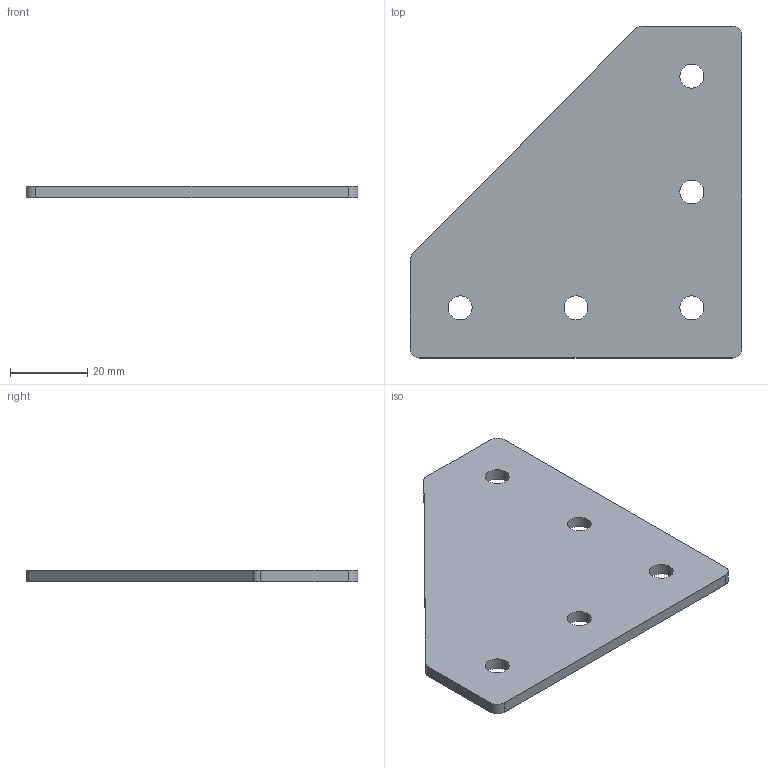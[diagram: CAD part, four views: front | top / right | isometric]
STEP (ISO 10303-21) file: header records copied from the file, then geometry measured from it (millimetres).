
FILE_DESCRIPTION (( 'STEP AP203' ), '1' );
FILE_NAME ('ﾃ-5-ﾓ-30.STEP', '2016-07-19T13:21:42', ( 'RosInstal-MKM' ), ( '' ), 'SwSTEP 2.0', 'SolidWorks 2014', '' );
FILE_SCHEMA (( 'CONFIG_CONTROL_DESIGN' ));
Length unit declared in the file: millimetre
Products named in the file (1): ﾃ-5-ﾓ-30
Bounding box: 86 x 86 x 3 mm (x, y, z)
Volume: 16433.6 mm3; surface area: 12165.2 mm2
Topology: 1 solids, 1 shells, 22 faces, 60 edges, 40 vertices
Faces by surface type: cylinder 15, plane 7
Entity records: 811 total; most frequent: DIRECTION 136, CARTESIAN_POINT 123, ORIENTED_EDGE 120, EDGE_CURVE 60, AXIS2_PLACEMENT_3D 53, VERTEX_POINT 40, EDGE_LOOP 32, LINE 30
